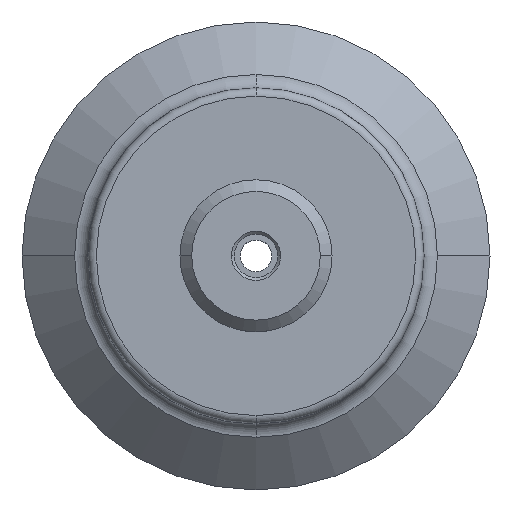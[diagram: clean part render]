
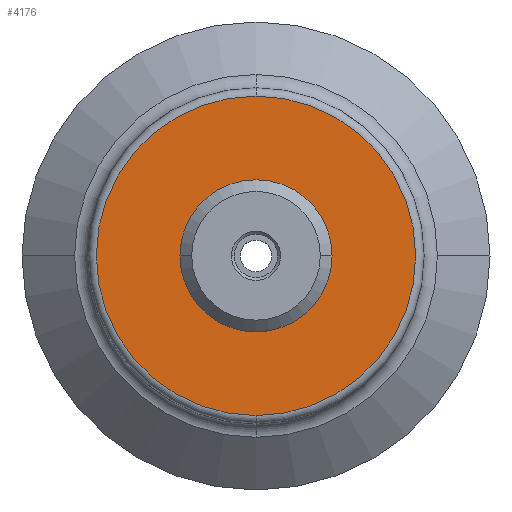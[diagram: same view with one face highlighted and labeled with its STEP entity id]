
A CAD part, top view. The second image highlights one B-rep face of the part: STEP entity #4176.
In plain terms, the highlighted planar face has unit normal (0, 0, 1).
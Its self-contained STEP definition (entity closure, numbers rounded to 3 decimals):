
#205 = AXIS2_PLACEMENT_3D ( 'NONE', #3374, #7880, #4009 ) ;
#1224 = AXIS2_PLACEMENT_3D ( 'NONE', #2862, #7370, #3502 ) ;
#1333 = CARTESIAN_POINT ( 'NONE',  ( 0., 30., 36. ) ) ;
#1527 = VERTEX_POINT ( 'NONE', #7615 ) ;
#2006 = PLANE ( 'NONE',  #4144 ) ;
#2031 = CARTESIAN_POINT ( 'NONE',  ( 49.125, 0., 36. ) ) ;
#2040 = CARTESIAN_POINT ( 'NONE',  ( 0., 68.25, 36. ) ) ;
#2332 = CIRCLE ( 'NONE', #205, 30. ) ;
#2456 = FACE_BOUND ( 'NONE', #7063, .T. ) ;
#2650 = DIRECTION ( 'NONE',  ( 1., 0., 0. ) ) ;
#2862 = CARTESIAN_POINT ( 'NONE',  ( 0., 0., 36. ) ) ;
#3039 = DIRECTION ( 'NONE',  ( 0., 0., -1. ) ) ;
#3049 = ORIENTED_EDGE ( 'NONE', *, *, #5089, .F. ) ;
#3338 = CIRCLE ( 'NONE', #4661, 30. ) ;
#3374 = CARTESIAN_POINT ( 'NONE',  ( 0., 0., 36. ) ) ;
#3392 = DIRECTION ( 'NONE',  ( 0., 0., -1. ) ) ;
#3502 = DIRECTION ( 'NONE',  ( 1., 0., 0. ) ) ;
#4009 = DIRECTION ( 'NONE',  ( 1., 0., 0. ) ) ;
#4144 = AXIS2_PLACEMENT_3D ( 'NONE', #2031, #6483, #2650 ) ;
#4176 = ADVANCED_FACE ( 'NONE', ( #5859, #2456 ), #2006, .T. ) ;
#4484 = EDGE_LOOP ( 'NONE', ( #8008, #3049 ) ) ;
#4593 = VERTEX_POINT ( 'NONE', #1333 ) ;
#4661 = AXIS2_PLACEMENT_3D ( 'NONE', #7259, #3392, #7895 ) ;
#4669 = VERTEX_POINT ( 'NONE', #2040 ) ;
#5089 = EDGE_CURVE ( 'NONE', #1527, #4669, #7232, .T. ) ;
#5146 = AXIS2_PLACEMENT_3D ( 'NONE', #6892, #3039, #7540 ) ;
#5284 = ORIENTED_EDGE ( 'NONE', *, *, #7350, .T. ) ;
#5658 = EDGE_CURVE ( 'NONE', #4669, #1527, #6683, .T. ) ;
#5859 = FACE_OUTER_BOUND ( 'NONE', #4484, .T. ) ;
#6483 = DIRECTION ( 'NONE',  ( 0., 0., 1. ) ) ;
#6594 = CARTESIAN_POINT ( 'NONE',  ( 0., -30., 36. ) ) ;
#6683 = CIRCLE ( 'NONE', #5146, 68.25 ) ;
#6715 = ORIENTED_EDGE ( 'NONE', *, *, #8080, .T. ) ;
#6892 = CARTESIAN_POINT ( 'NONE',  ( 0., 0., 36. ) ) ;
#7063 = EDGE_LOOP ( 'NONE', ( #6715, #5284 ) ) ;
#7232 = CIRCLE ( 'NONE', #1224, 68.25 ) ;
#7259 = CARTESIAN_POINT ( 'NONE',  ( 0., 0., 36. ) ) ;
#7350 = EDGE_CURVE ( 'NONE', #7361, #4593, #3338, .T. ) ;
#7361 = VERTEX_POINT ( 'NONE', #6594 ) ;
#7370 = DIRECTION ( 'NONE',  ( 0., 0., -1. ) ) ;
#7540 = DIRECTION ( 'NONE',  ( 1., 0., 0. ) ) ;
#7615 = CARTESIAN_POINT ( 'NONE',  ( 0., -68.25, 36. ) ) ;
#7880 = DIRECTION ( 'NONE',  ( 0., 0., -1. ) ) ;
#7895 = DIRECTION ( 'NONE',  ( 1., 0., 0. ) ) ;
#8008 = ORIENTED_EDGE ( 'NONE', *, *, #5658, .F. ) ;
#8080 = EDGE_CURVE ( 'NONE', #4593, #7361, #2332, .T. ) ;
